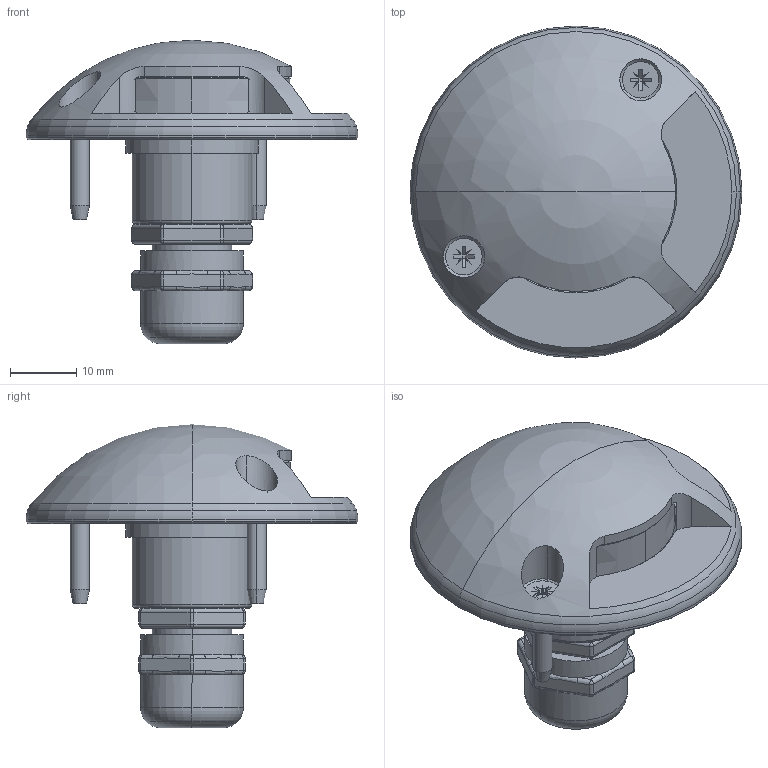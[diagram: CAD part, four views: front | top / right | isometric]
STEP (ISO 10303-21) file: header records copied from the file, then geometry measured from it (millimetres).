
FILE_DESCRIPTION((''),'2;1');
FILE_NAME('CNC_49_C180_SW0001','2025-07-30T16:09:02',('Manenti'),(''),'CREO PARAMETRIC BY PTC INC, 2025010','CREO PARAMETRIC BY PTC INC, 2025010','');
FILE_SCHEMA(('CONFIG_CONTROL_DESIGN'));
Length unit declared in the file: millimetre
Products named in the file (1): CNC_49_C180_SW0001
Bounding box: 50 x 50 x 45.7 mm (x, y, z)
Surface area: 13239.2 mm2 (no closed solid volume)
Topology: 0 solids, 13 shells, 369 faces, 1084 edges, 690 vertices
Faces by surface type: plane 133, cylinder 102, cone 54, torus 30, sphere 26, bspline 24
Entity records: 13106 total; most frequent: CARTESIAN_POINT 3536, DIRECTION 2056, ORIENTED_EDGE 1896, EDGE_CURVE 1050, AXIS2_PLACEMENT_3D 809, VERTEX_POINT 690, CIRCLE 464, VECTOR 438
